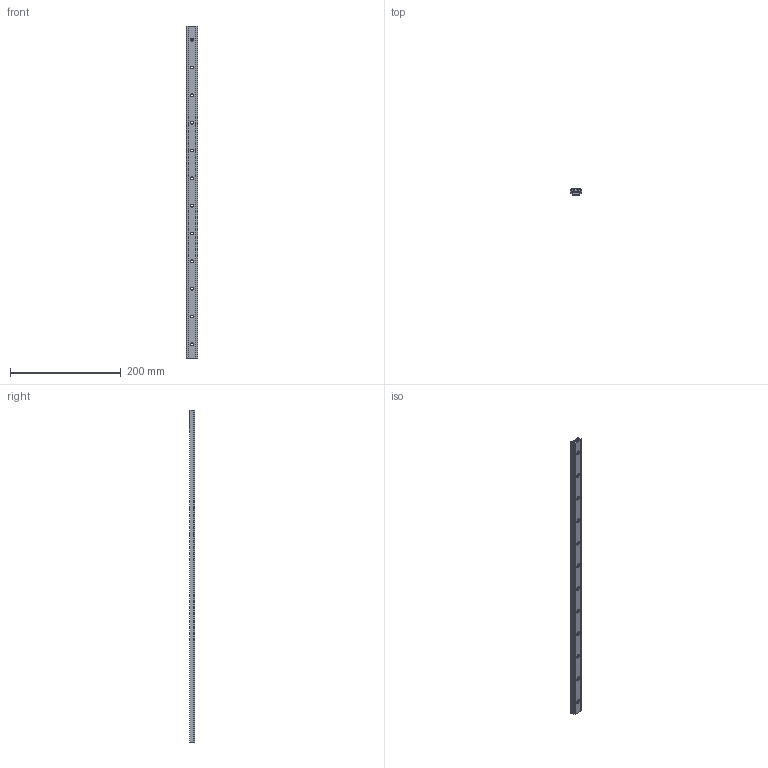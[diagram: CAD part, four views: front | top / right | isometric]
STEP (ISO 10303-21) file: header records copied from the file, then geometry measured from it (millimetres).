
FILE_DESCRIPTION (( 'STEP AP203' ), '1' );
FILE_NAME ('mlg-20c_mlg20-600_0.step', '2023-07-21T01:38:06', ( '' ), ( '' ), 'SwSTEP 2.0', 'SolidWorks 2022', '' );
FILE_SCHEMA (( 'CONFIG_CONTROL_DESIGN' ));
Length unit declared in the file: millimetre
Products named in the file (3): mlg-20c_0; mlg20-600_0_L=400; mlg-20c_mlg20-600_0
Assembly tree (2 placements, depth 2):
  mlg-20c_mlg20-600_0
    mlg20-600_0_L=400
    mlg-20c_0
Bounding box: 20.15 x 10.5 x 600 mm (x, y, z)
Volume: 42276.1 mm3; surface area: 46498.5 mm2
Topology: 2 solids, 2 shells, 461 faces, 1169 edges, 774 vertices
Faces by surface type: plane 264, cylinder 173, torus 24
Entity records: 14354 total; most frequent: DIRECTION 2503, CARTESIAN_POINT 2409, ORIENTED_EDGE 2338, EDGE_CURVE 1169, AXIS2_PLACEMENT_3D 868, VERTEX_POINT 774, VECTOR 767, LINE 767
